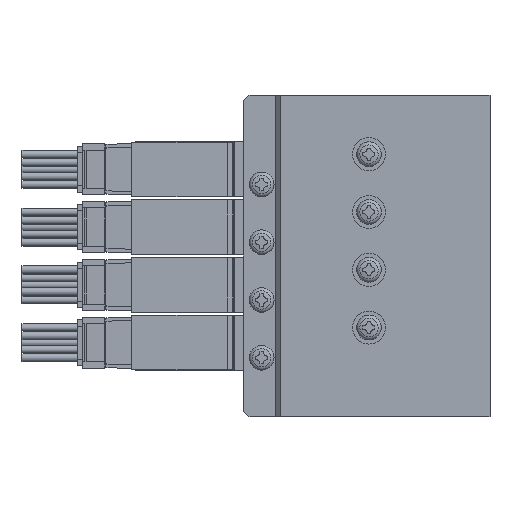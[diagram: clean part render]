
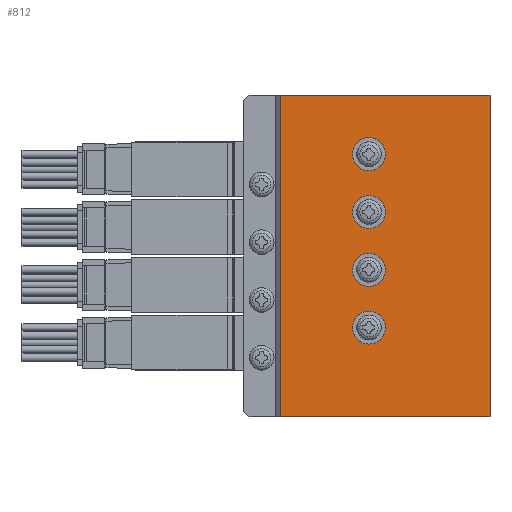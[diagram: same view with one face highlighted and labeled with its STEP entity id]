
A CAD part, left-side view. The second image highlights one B-rep face of the part: STEP entity #812.
In plain terms, the highlighted planar face has unit normal (-1, 0, 0) as drawn and (1, 0, 0) by its records, which use the part's own axes.
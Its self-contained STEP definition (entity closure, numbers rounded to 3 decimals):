
#812=ADVANCED_FACE('',(#1854,#1855,#1856,#1857,#1858),#1859,.F.);
#1854=FACE_OUTER_BOUND('',#3219,.T.);
#1855=FACE_BOUND('',#3220,.T.);
#1856=FACE_BOUND('',#3221,.T.);
#1857=FACE_BOUND('',#3222,.T.);
#1858=FACE_BOUND('',#3223,.T.);
#1859=PLANE('',#3224);
#3219=EDGE_LOOP('',(#6796,#6797,#6798,#6799));
#3220=EDGE_LOOP('',(#6800));
#3221=EDGE_LOOP('',(#6801));
#3222=EDGE_LOOP('',(#6802));
#3223=EDGE_LOOP('',(#6803));
#3224=AXIS2_PLACEMENT_3D('',#6804,#6805,#6806);
#6796=ORIENTED_EDGE('',*,*,#9255,.T.);
#6797=ORIENTED_EDGE('',*,*,#9256,.F.);
#6798=ORIENTED_EDGE('',*,*,#9257,.F.);
#6799=ORIENTED_EDGE('',*,*,#9258,.T.);
#6800=ORIENTED_EDGE('',*,*,#9259,.F.);
#6801=ORIENTED_EDGE('',*,*,#9260,.F.);
#6802=ORIENTED_EDGE('',*,*,#9261,.F.);
#6803=ORIENTED_EDGE('',*,*,#9262,.F.);
#6804=CARTESIAN_POINT('',(19.0,0.0,29.25));
#6805=DIRECTION('',(-1.0,0.0,0.0));
#6806=DIRECTION('',(0.0,0.0,1.0));
#9255=EDGE_CURVE('',#11342,#11343,#11344,.T.);
#9256=EDGE_CURVE('',#11345,#11343,#11346,.T.);
#9257=EDGE_CURVE('',#11347,#11345,#11348,.T.);
#9258=EDGE_CURVE('',#11347,#11342,#11349,.T.);
#9259=EDGE_CURVE('',#11350,#11350,#11351,.T.);
#9260=EDGE_CURVE('',#11352,#11352,#11353,.T.);
#9261=EDGE_CURVE('',#11354,#11354,#11355,.T.);
#9262=EDGE_CURVE('',#11356,#11356,#11357,.T.);
#11342=VERTEX_POINT('',#15120);
#11343=VERTEX_POINT('',#15121);
#11344=LINE('',#15122,#15123);
#11345=VERTEX_POINT('',#15124);
#11346=LINE('',#15125,#15126);
#11347=VERTEX_POINT('',#15127);
#11348=LINE('',#15128,#15129);
#11349=LINE('',#15130,#15131);
#11350=VERTEX_POINT('',#15132);
#11351=CIRCLE('',#15133,3.0);
#11352=VERTEX_POINT('',#15134);
#11353=CIRCLE('',#15135,3.0);
#11354=VERTEX_POINT('',#15136);
#11355=CIRCLE('',#15137,3.0);
#11356=VERTEX_POINT('',#15138);
#11357=CIRCLE('',#15139,3.0);
#15120=CARTESIAN_POINT('',(19.0,0.0,-29.25));
#15121=CARTESIAN_POINT('',(19.0,38.0,-29.25));
#15122=CARTESIAN_POINT('',(19.0,0.0,-29.25));
#15123=VECTOR('',#17751,1.0);
#15124=CARTESIAN_POINT('',(19.0,38.0,29.25));
#15125=CARTESIAN_POINT('',(19.0,38.0,29.25));
#15126=VECTOR('',#17752,1.0);
#15127=CARTESIAN_POINT('',(19.0,0.0,29.25));
#15128=CARTESIAN_POINT('',(19.0,0.0,29.25));
#15129=VECTOR('',#17753,1.0);
#15130=CARTESIAN_POINT('',(19.0,0.0,29.25));
#15131=VECTOR('',#17754,1.0);
#15132=CARTESIAN_POINT('',(19.0,22.0,10.0));
#15133=AXIS2_PLACEMENT_3D('',#17755,#17756,#17757);
#15134=CARTESIAN_POINT('',(19.0,22.0,-21.5));
#15135=AXIS2_PLACEMENT_3D('',#17758,#17759,#17760);
#15136=CARTESIAN_POINT('',(19.0,22.0,-11.0));
#15137=AXIS2_PLACEMENT_3D('',#17761,#17762,#17763);
#15138=CARTESIAN_POINT('',(19.0,22.0,-0.5));
#15139=AXIS2_PLACEMENT_3D('',#17764,#17765,#17766);
#17751=DIRECTION('',(0.0,1.0,0.0));
#17752=DIRECTION('',(0.0,0.0,-1.0));
#17753=DIRECTION('',(0.0,1.0,0.0));
#17754=DIRECTION('',(0.0,0.0,-1.0));
#17755=CARTESIAN_POINT('',(19.0,22.0,13.0));
#17756=DIRECTION('',(1.0,0.0,0.0));
#17757=DIRECTION('',(0.0,0.0,-1.0));
#17758=CARTESIAN_POINT('',(19.0,22.0,-18.5));
#17759=DIRECTION('',(1.0,0.0,0.0));
#17760=DIRECTION('',(0.0,0.0,-1.0));
#17761=CARTESIAN_POINT('',(19.0,22.0,-8.0));
#17762=DIRECTION('',(1.0,0.0,0.0));
#17763=DIRECTION('',(0.0,0.0,-1.0));
#17764=CARTESIAN_POINT('',(19.0,22.0,2.5));
#17765=DIRECTION('',(1.0,0.0,0.0));
#17766=DIRECTION('',(0.0,0.0,-1.0));
